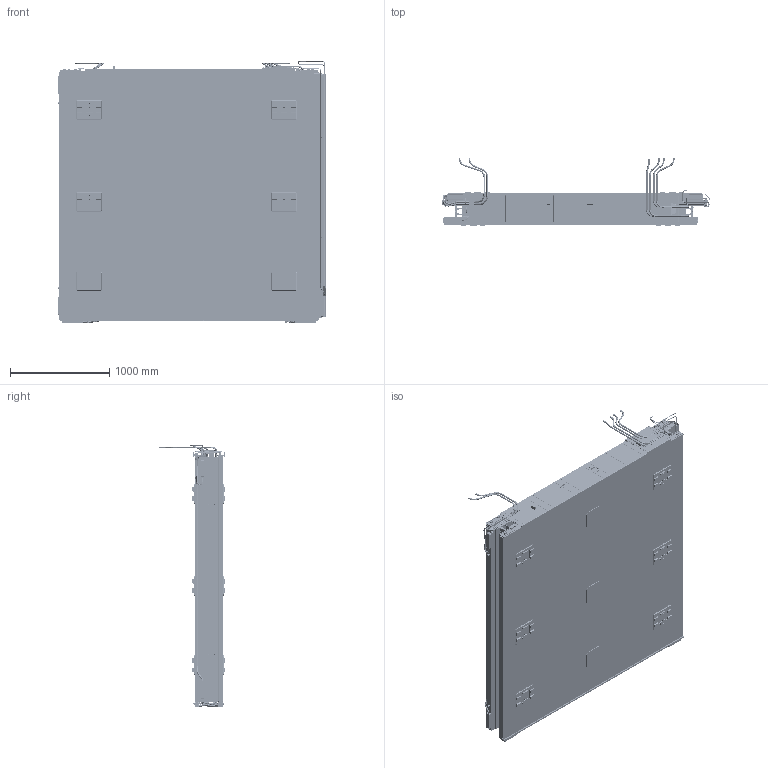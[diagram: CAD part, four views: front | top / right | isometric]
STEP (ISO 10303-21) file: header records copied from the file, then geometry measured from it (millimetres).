
FILE_DESCRIPTION(/* description */ (''),/* implementation_level */ '2;1');
FILE_NAME(/* name */ '030930_mb2_2_2_4_th_phi_R_carters.stp',/* time_stamp */ '2022-04-14T13:44:35+02:00',/* author */ (''),/* organization */ (''),/* preprocessor_version */ 'ST-DEVELOPER v18.1',/* originating_system */ 'SIEMENS PLM Software NX 1992',/* authorisation */ '');
FILE_SCHEMA (('AUTOMOTIVE_DESIGN { 1 0 10303 214 3 1 1 1 }'));
Products named in the file (1): zago349C2021bo1n
Bounding box: 2695.4 x 671.5 x 2641.84 mm (x, y, z)
Volume: 814816837.6 mm3; surface area: 150080565.4 mm2
Topology: 304 solids, 304 shells, 16043 faces, 40881 edges, 25415 vertices
Faces by surface type: plane 10275, cylinder 4604, cone 881, bspline 136, torus 104, sphere 43
Full cylindrical faces by diameter (mm): 1 x219, 1.675 x12, 2.459 x3, 2.594 x54, 3 x76, 3.2 x12, 3.3 x36, 3.432 x475, 3.5 x53, 3.778 x7, 4 x39, 4.5 x1, 4.8 x32, 5 x90, 5.188 x64, 5.5 x286, 6 x33, 6.4 x23, 6.5 x16, 7 x3, 7.188 x4, 7.5 x72, 8 x61, 8.6 x6, 8.782 x28, 8.933 x24, 8.985 x24, 9.391 x48, 9.5 x64, 10 x4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
Entity records: 496900 total; most frequent: CARTESIAN_POINT 128352, ORIENTED_EDGE 72458, DIRECTION 67557, EDGE_CURVE 36229, AXIS2_PLACEMENT_3D 25068, VERTEX_POINT 24111, EDGE_LOOP 21948, LINE 17421
